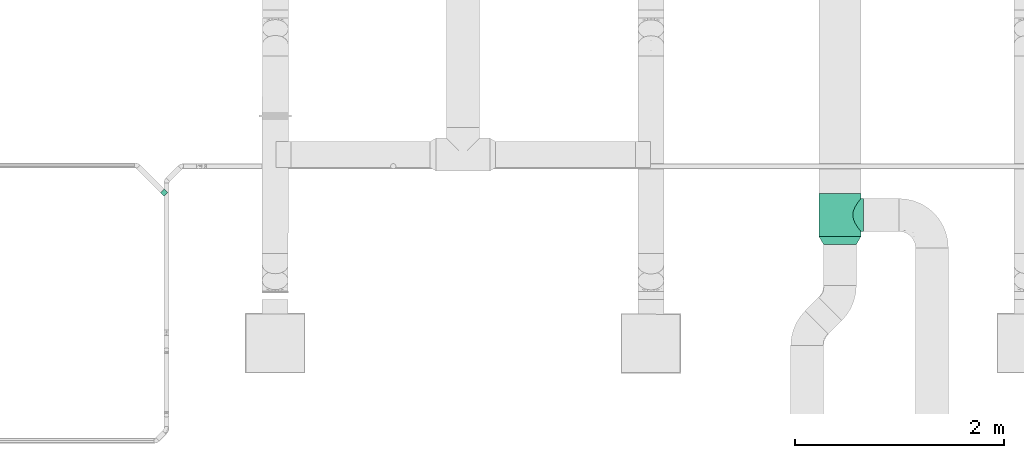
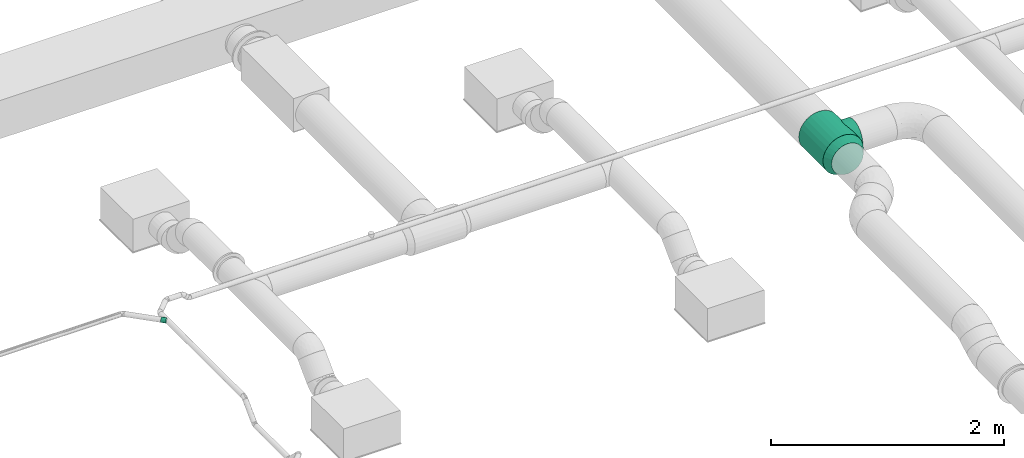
# One storey, part 57 of 63: 3 flow fittings.
"""IFC2X3 building model written with IfcOpenShell, lengths in millimetres."""

from ifc_helpers import new_model, entity, si_unit, converted_unit, derived_unit, direction, frame, origin_with_axes, place, context, subcontext, project, spatial, open_shell, surface_model, source, transform, mapped, type_object, element, save


model = new_model("IFC2X3")

# Units and contexts
model_context = context("Model", 3, precision=0.01, world=frame((0.0, 4.29681676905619e-09, 0.0)), true_north=direction((4.01073788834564e-13, 1.0)))
plan_context = context("Plan", 3, precision=0.01, world=frame((0.0, 4.29681676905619e-09, 0.0)), true_north=direction((4.01073788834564e-13, 1.0)))
body_context = subcontext(model_context, "Body", "Model", "MODEL_VIEW")
ifc_project = project(units=[converted_unit("PLANEANGLEUNIT", "DEGREE", entity("IfcPositiveLengthMeasure", 0.0174532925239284), si_unit("PLANEANGLEUNIT", "RADIAN"), dimensions=[0, 0, 0, 0, 0, 0, 0]), si_unit("AREAUNIT", "SQUARE_METRE"), si_unit("LENGTHUNIT", "METRE", prefix="MILLI"), si_unit("MASSUNIT", "GRAM", prefix="KILO"), si_unit("POWERUNIT", "WATT"), si_unit("PRESSUREUNIT", "PASCAL"), si_unit("FORCEUNIT", "NEWTON", prefix="KILO"), si_unit("ELECTRICVOLTAGEUNIT", "VOLT"), si_unit("ELECTRICCURRENTUNIT", "AMPERE"), si_unit("THERMODYNAMICTEMPERATUREUNIT", "DEGREE_CELSIUS"), si_unit("TIMEUNIT", "SECOND"), si_unit("VOLUMEUNIT", "CUBIC_METRE"), derived_unit("LINEARVELOCITYUNIT", [(si_unit("LENGTHUNIT", "METRE"), 1), (si_unit("TIMEUNIT", "SECOND"), -1)]), derived_unit("VOLUMETRICFLOWRATEUNIT", [(si_unit("VOLUMEUNIT", "CUBIC_METRE"), 1), (si_unit("TIMEUNIT", "SECOND"), -1)]), derived_unit("THERMALTRANSMITTANCEUNIT", [(si_unit("POWERUNIT", "WATT"), 1), (si_unit("THERMODYNAMICTEMPERATUREUNIT", "KELVIN"), -1), (si_unit("AREAUNIT", "SQUARE_METRE"), -1)]), derived_unit("SOUNDPRESSUREUNIT", [(si_unit("PRESSUREUNIT", "PASCAL"), 1)])], contexts=[model_context, plan_context])

# Site, building, storey
site_placement = place(None, frame((0.0, -4.29681676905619e-09, 0.0), z_axis=(0.0, 0.0, 1.0), x_axis=(1.0, 0.0, 0.0)))
site = spatial("IfcSite", under=ifc_project, at=site_placement, CompositionType="ELEMENT")
building_placement = place(site_placement, frame((0.0, 4.29681676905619e-09, 0.0), z_axis=(0.0, 0.0, 1.0), x_axis=(1.0, 0.0, 0.0)))
building = spatial("IfcBuilding", under=site, at=building_placement, Name="mc-building", CompositionType="ELEMENT")
storey_placement = place(building_placement, frame((0.0, 0.0, 210900.0), z_axis=(0.0, 0.0, 1.0), x_axis=(1.0, 0.0, 0.0)))
storey = spatial("IfcBuildingStorey", under=building, at=storey_placement, Name="Nivå F", CompositionType="ELEMENT", Elevation=210900.0)

# Flow fittings
duct_fitting_type_1 = type_object("IfcDuctFittingType", Name="magicirc_tapoutlet_001", PredefinedType="CONNECTOR")
shared_shape_1 = source(origin_with_axes(), body_context, "Body", "SurfaceModel", [
    surface_model("IfcShellBasedSurfaceModel", [(20.0, 6.47048, -24.14815), (20.0, 25.0, 0.0), (20.0, 0.0, -25.0), (20.0, 12.5, -21.65064), (20.0, 17.67767, -17.67767), (20.0, 21.65064, -12.5), (20.0, -17.67767, -17.67767), (20.0, -24.14815, 6.47048), (20.0, -12.5, -21.65064), (20.0, -6.47048, -24.14815), (20.0, -21.65064, -12.5), (20.0, -24.14815, -6.47048), (20.0, -25.0, 0.0), (20.0, 24.14815, -6.47048), (20.0, 24.14815, 6.47048), (20.0, 21.65064, 12.5), (20.0, 0.0, 25.0), (20.0, 17.67767, 17.67767), (20.0, 12.5, 21.65064), (20.0, 6.47048, 24.14815), (20.0, -17.67767, 17.67767), (20.0, -21.65064, 12.5), (20.0, -12.5, 21.65064), (20.0, -6.47048, 24.14815), (0.0, 0.0, 25.0), (0.0, 6.47048, 24.14815), (0.0, 12.5, 21.65064), (0.0, 17.67767, 17.67767), (0.0, 21.65064, 12.5), (0.0, 24.14815, 6.47048), (0.0, 25.0, 0.0), (0.0, 24.14815, -6.47048), (0.0, 21.65064, -12.5), (0.0, 17.67767, -17.67767), (0.0, 0.0, -25.0), (0.0, 6.47048, -24.14815), (0.0, 12.5, -21.65064), (0.0, -6.47048, -24.14815), (0.0, -12.5, -21.65064), (0.0, -17.67767, -17.67767), (0.0, -21.65064, -12.5), (0.0, -24.14815, -6.47048), (0.0, -25.0, 0.0), (0.0, -24.14815, 6.47048), (0.0, -21.65064, 12.5), (0.0, -17.67767, 17.67767), (0.0, -12.5, 21.65064), (0.0, -6.47048, 24.14815), (-26.33341, 0.0, -25.0), (-26.33341, -6.47048, -24.14815), (-26.33341, 6.47048, -24.14815), (-26.33341, 24.14815, 6.47048), (-26.33341, 12.5, -21.65064), (-26.33341, 17.67767, -17.67767), (-26.33341, 21.65064, -12.5), (-26.33341, -25.0, 0.0), (-26.33341, -24.14815, 6.47048), (-26.33341, -17.67767, -17.67767), (-26.33341, -12.5, -21.65064), (-26.33341, -24.14815, -6.47048), (-26.33341, -21.65064, -12.5), (-26.33341, 24.14815, -6.47048), (-26.33341, 21.65064, 12.5), (-26.33341, 17.67767, 17.67767), (-26.33341, 12.5, 21.65064), (-26.33341, -6.47048, 24.14815), (-26.33341, 6.47048, 24.14815), (-26.33341, -21.65064, 12.5), (-26.33341, -17.67767, 17.67767), (-26.33341, -12.5, 21.65064), (-26.33341, 0.0, 25.0), (-26.33341, 25.0, 0.0)], [open_shell([[[0, 1, 2]], [[3, 1, 0]], [[4, 5, 1]], [[4, 1, 3]], [[6, 2, 7]], [[2, 6, 8]], [[8, 9, 2]], [[10, 7, 11]], [[10, 6, 7]], [[12, 11, 7]], [[1, 5, 13]], [[2, 14, 15]], [[16, 2, 15]], [[16, 17, 18]], [[16, 15, 17]], [[18, 19, 16]], [[20, 21, 2]], [[7, 2, 21]], [[2, 22, 20]], [[23, 22, 2]], [[16, 23, 2]], [[1, 14, 2]], [[24, 16, 19]], [[25, 19, 18]], [[24, 19, 25]], [[26, 17, 27]], [[26, 25, 18]], [[17, 26, 18]], [[28, 15, 14]], [[29, 14, 1]], [[27, 15, 28]], [[29, 28, 14]], [[30, 29, 1]], [[15, 27, 17]], [[30, 1, 13]], [[31, 13, 5]], [[30, 13, 31]], [[32, 4, 33]], [[32, 31, 5]], [[4, 32, 5]], [[0, 2, 34]], [[3, 0, 35]], [[36, 33, 3]], [[34, 35, 0]], [[36, 3, 35]], [[3, 33, 4]], [[34, 2, 9]], [[37, 9, 8]], [[34, 9, 37]], [[38, 6, 39]], [[38, 37, 8]], [[6, 38, 8]], [[40, 10, 11]], [[41, 11, 12]], [[39, 10, 40]], [[41, 40, 11]], [[42, 41, 12]], [[10, 39, 6]], [[42, 12, 7]], [[43, 7, 21]], [[42, 7, 43]], [[44, 20, 45]], [[44, 43, 21]], [[20, 44, 21]], [[46, 22, 23]], [[47, 23, 16]], [[45, 22, 46]], [[47, 46, 23]], [[24, 47, 16]], [[22, 45, 20]], [[17, 16, 15]], [[21, 7, 2]], [[22, 20, 2]], [[22, 2, 23]], [[48, 49, 50]], [[50, 51, 52]], [[53, 51, 54]], [[52, 51, 53]], [[50, 55, 56]], [[57, 55, 58]], [[49, 58, 55]], [[59, 55, 60]], [[57, 60, 55]], [[55, 50, 49]], [[61, 54, 51]], [[50, 62, 51]], [[63, 62, 50]], [[64, 63, 65]], [[65, 63, 50]], [[65, 66, 64]], [[67, 68, 50]], [[50, 56, 67]], [[69, 50, 68]], [[50, 69, 65]], [[65, 70, 66]], [[71, 61, 51]], [[70, 24, 25]], [[66, 25, 26]], [[70, 25, 66]], [[64, 27, 63]], [[64, 66, 26]], [[27, 64, 26]], [[62, 28, 29]], [[51, 29, 30]], [[63, 28, 62]], [[51, 62, 29]], [[71, 51, 30]], [[28, 63, 27]], [[71, 30, 31]], [[61, 31, 32]], [[71, 31, 61]], [[54, 33, 53]], [[54, 61, 32]], [[33, 54, 32]], [[50, 36, 35]], [[48, 35, 34]], [[52, 53, 36]], [[50, 52, 36]], [[35, 48, 50]], [[36, 53, 33]], [[48, 34, 37]], [[49, 37, 38]], [[48, 37, 49]], [[58, 39, 57]], [[58, 49, 38]], [[39, 58, 38]], [[41, 42, 55]], [[40, 41, 60]], [[60, 57, 40]], [[55, 59, 41]], [[60, 41, 59]], [[40, 57, 39]], [[55, 42, 43]], [[56, 43, 44]], [[55, 43, 56]], [[67, 45, 68]], [[67, 56, 44]], [[45, 67, 44]], [[47, 24, 65]], [[46, 47, 69]], [[68, 46, 69]], [[70, 65, 24]], [[47, 65, 69]], [[46, 68, 45]]])]),
])
flow_fitting_1_placement = place(storey_placement, frame((522235.0, 452230.74559, 4480.0), z_axis=(0.0, 0.0, -1.0), x_axis=(-0.707106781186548, 0.707106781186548, 0.0)))
element("IfcFlowFitting", 1, at=flow_fitting_1_placement, inside=storey, type_object=duct_fitting_type_1, Name="magicirc_tapoutlet_001", context=body_context, shape_type="MappedRepresentation", body=[
    mapped(shared_shape_1, transform((0.0, 0.0, 0.0), scale=1.0)),
])
duct_fitting_type_2 = type_object("IfcDuctFittingType", Name="TCPU", PredefinedType="JUNCTION")
shared_shape_2 = source(origin_with_axes(), body_context, "Body", "SurfaceModel", [
    surface_model("IfcShellBasedSurfaceModel", [(0.0, -225.0, -157.5), (40.764, -225.0, -152.13332), (-40.764, -225.0, -152.13332), (-152.13332, -225.0, 40.764), (-78.75, -225.0, -136.39901), (-111.36932, -225.0, -111.36932), (-136.39901, -225.0, -78.75), (157.5, -225.0, 0.0), (152.13332, -225.0, 40.764), (111.36932, -225.0, -111.36932), (78.75, -225.0, -136.39901), (152.13332, -225.0, -40.764), (136.39901, -225.0, -78.75), (-152.13332, -225.0, -40.764), (-111.36932, -225.0, 111.36932), (-136.39901, -225.0, 78.75), (-40.764, -225.0, 152.13332), (-78.75, -225.0, 136.39901), (0.0, -225.0, 157.5), (111.36932, -225.0, 111.36932), (136.39901, -225.0, 78.75), (40.764, -225.0, 152.13332), (78.75, -225.0, 136.39901), (-157.5, -225.0, 0.0), (0.0, -123.26293, 157.5), (-19.97844, -124.87148, 156.22776), (-39.2161, -129.35089, 152.53965), (-57.29101, -135.92649, 146.71057), (-74.08667, -143.81441, 138.9871), (-89.60742, -152.39173, 129.52513), (-103.858, -161.18386, 118.4051), (-116.79651, -169.80924, 105.66374), (-128.31739, -177.93006, 91.32852), (-146.38289, -191.36797, 58.12314), (-144.26616, -225.0, 59.757), (-152.45481, -196.05157, 39.54467), (-138.25281, -185.22309, 75.44807), (-156.22199, -198.99512, 20.02355), (-157.5, -200.0, 0.0), (-154.81666, -225.0, 20.382), (-152.45341, -196.0505, -39.55003), (-146.38091, -191.36646, -58.12813), (-128.31442, -177.92791, -91.33268), (-138.24999, -185.22098, -75.45323), (-154.81666, -225.0, -20.382), (-156.22113, -198.99445, -20.03014), (-144.26616, -225.0, -59.757), (-116.79519, -169.80833, -105.6652), (-74.08949, -143.81586, -138.9856), (-57.29475, -135.92807, -146.7091), (-39.22125, -129.35245, -152.53833), (-19.98399, -124.87237, -156.22706), (0.0, -123.26293, -157.5), (-103.85894, -161.18446, -118.40426), (-89.60943, -152.39291, -129.52374), (19.97844, -124.87148, -156.22776), (39.2161, -129.35089, -152.53965), (57.29101, -135.92649, -146.71057), (74.08667, -143.81441, -138.9871), (89.60742, -152.39173, -129.52513), (103.858, -161.18386, -118.4051), (116.79651, -169.80924, -105.66374), (128.31739, -177.93006, -91.32852), (146.38289, -191.36797, -58.12314), (144.26616, -225.0, -59.757), (152.45481, -196.05157, -39.54467), (138.25281, -185.22309, -75.44807), (156.22199, -198.99512, -20.02355), (157.5, -200.0, 0.0), (154.81666, -225.0, -20.382), (152.45481, -196.05157, 39.54467), (146.38289, -191.36797, 58.12314), (128.31739, -177.93006, 91.32852), (138.25281, -185.22309, 75.44807), (154.81666, -225.0, 20.382), (156.22199, -198.99512, 20.02355), (144.26616, -225.0, 59.757), (116.79651, -169.80924, 105.66374), (74.08667, -143.81441, 138.9871), (57.29101, -135.92649, 146.71057), (39.2161, -129.35089, 152.53965), (19.97844, -124.87148, 156.22776), (103.858, -161.18386, 118.4051), (89.60742, -152.39173, 129.52513), (-207.5, 0.0, -200.0), (-207.5, -44.50419, -194.98559), (-207.5, 44.50419, -194.98559), (-207.5, 194.98559, 44.50419), (-207.5, 86.77674, -180.19378), (-207.5, 180.19378, -86.77674), (-207.5, 156.36629, -124.69796), (-207.5, 124.69796, -156.36629), (-207.5, -200.0, 0.0), (-207.5, -194.98559, 44.50419), (-207.5, -124.69796, -156.36629), (-207.5, -86.77674, -180.19378), (-207.5, -156.36629, -124.69796), (-207.5, -180.19378, -86.77674), (-207.5, -194.98559, -44.50419), (-207.5, 194.98559, -44.50419), (-207.5, 180.19378, 86.77674), (-207.5, 156.36629, 124.69796), (-207.5, 124.69796, 156.36629), (-207.5, 86.77674, 180.19378), (-207.5, 44.50419, 194.98559), (-207.5, 0.0, 200.0), (-207.5, -156.36629, 124.69796), (-207.5, -180.19378, 86.77674), (-207.5, -86.77674, 180.19378), (-207.5, -44.50419, 194.98559), (-207.5, -124.69796, 156.36629), (-207.5, 200.0, 0.0), (207.5, 200.0, 0.0), (207.5, 0.0, -200.0), (207.5, 44.50419, -194.98559), (207.5, 86.77674, -180.19378), (207.5, 156.36629, -124.69796), (207.5, 180.19378, -86.77674), (207.5, 124.69796, -156.36629), (207.5, -156.36629, -124.69796), (207.5, -194.98559, 44.50419), (207.5, -86.77674, -180.19378), (207.5, -44.50419, -194.98559), (207.5, -124.69796, -156.36629), (207.5, -180.19378, -86.77674), (207.5, -194.98559, -44.50419), (207.5, -200.0, 0.0), (207.5, 194.98559, -44.50419), (207.5, 194.98559, 44.50419), (207.5, 180.19378, 86.77674), (207.5, 156.36629, 124.69796), (207.5, 124.69796, 156.36629), (207.5, 86.77674, 180.19378), (207.5, 44.50419, 194.98559), (207.5, -156.36629, 124.69796), (207.5, -180.19378, 86.77674), (207.5, -86.77674, 180.19378), (207.5, -124.69796, 156.36629), (207.5, -44.50419, 194.98559), (207.5, 0.0, 200.0), (207.5, -196.23918, -33.37814), (207.5, -168.28003, -105.73735), (154.3384, -197.52335, -29.78411), (-207.5, -191.28763, -55.07233), (-207.5, -187.58968, -65.64047), (-207.5, -197.4928, -22.25209), (-207.5, -168.28003, -105.73735), (207.5, -187.58968, -65.64047), (-154.33727, -197.52248, -29.79009), (207.5, -191.28763, -55.07233), (207.5, -197.4928, -22.25209), (-207.5, -196.23918, -33.37814), (207.5, -196.23918, 33.37814), (154.3384, -197.52335, 29.78411), (207.5, -197.4928, 22.25209), (207.5, -187.58968, 65.64047), (207.5, -168.28003, 105.73735), (-207.5, -197.4928, 22.25209), (-154.3384, -197.52335, 29.78411), (-207.5, -168.28003, 105.73735), (-207.5, -187.58968, 65.64047), (-207.5, -191.28763, 55.07233), (-207.5, -196.23918, 33.37814), (207.5, -191.28763, 55.07233)], [open_shell([[[0, 1, 2]], [[2, 3, 4]], [[5, 3, 6]], [[4, 3, 5]], [[2, 7, 8]], [[9, 7, 10]], [[2, 1, 10]], [[11, 7, 12]], [[9, 12, 7]], [[10, 7, 2]], [[13, 6, 3]], [[2, 14, 3]], [[15, 3, 14]], [[2, 16, 17]], [[17, 14, 2]], [[16, 2, 18]], [[19, 18, 20]], [[2, 8, 20]], [[21, 18, 22]], [[19, 22, 18]], [[2, 20, 18]], [[23, 13, 3]], [[18, 24, 25]], [[16, 26, 27]], [[25, 26, 16]], [[16, 27, 28]], [[18, 25, 16]], [[17, 29, 30]], [[17, 16, 28]], [[17, 30, 14]], [[29, 17, 28]], [[31, 32, 14]], [[33, 3, 34]], [[33, 35, 3]], [[33, 34, 36]], [[32, 36, 15]], [[34, 15, 36]], [[15, 14, 32]], [[37, 38, 23]], [[37, 23, 39]], [[39, 3, 35]], [[39, 35, 37]], [[31, 14, 30]], [[40, 41, 13]], [[6, 42, 5]], [[43, 42, 6]], [[40, 44, 45]], [[43, 6, 46]], [[23, 38, 45]], [[13, 44, 40]], [[13, 41, 46]], [[45, 44, 23]], [[43, 46, 41]], [[42, 47, 5]], [[2, 48, 49]], [[2, 50, 51]], [[49, 50, 2]], [[51, 52, 0]], [[4, 5, 53]], [[53, 5, 47]], [[4, 53, 54]], [[48, 4, 54]], [[48, 2, 4]], [[51, 0, 2]], [[0, 52, 55]], [[1, 56, 57]], [[55, 56, 1]], [[1, 57, 58]], [[0, 55, 1]], [[10, 59, 60]], [[10, 1, 58]], [[10, 60, 9]], [[59, 10, 58]], [[61, 62, 9]], [[63, 11, 64]], [[63, 65, 11]], [[63, 64, 66]], [[62, 66, 12]], [[64, 12, 66]], [[12, 9, 62]], [[67, 68, 7]], [[67, 7, 69]], [[69, 11, 65]], [[69, 65, 67]], [[61, 9, 60]], [[70, 71, 8]], [[20, 72, 19]], [[73, 72, 20]], [[70, 74, 75]], [[73, 20, 76]], [[7, 68, 75]], [[8, 74, 70]], [[8, 71, 76]], [[75, 74, 7]], [[73, 76, 71]], [[72, 77, 19]], [[21, 78, 79]], [[21, 80, 81]], [[79, 80, 21]], [[81, 24, 18]], [[22, 19, 82]], [[82, 19, 77]], [[22, 82, 83]], [[78, 22, 83]], [[78, 21, 22]], [[81, 18, 21]], [[84, 85, 86]], [[86, 87, 88]], [[87, 89, 90]], [[90, 91, 87]], [[88, 87, 91]], [[86, 92, 93]], [[94, 92, 95]], [[86, 85, 95]], [[92, 96, 97]], [[97, 98, 92]], [[92, 94, 96]], [[95, 92, 86]], [[99, 89, 87]], [[87, 86, 100]], [[86, 101, 100]], [[102, 86, 103]], [[104, 103, 86]], [[86, 102, 101]], [[105, 104, 86]], [[106, 105, 107]], [[86, 93, 107]], [[108, 109, 105]], [[105, 110, 108]], [[106, 110, 105]], [[86, 107, 105]], [[111, 99, 87]], [[112, 113, 114]], [[115, 112, 114]], [[116, 117, 112]], [[112, 118, 116]], [[112, 115, 118]], [[119, 113, 120]], [[113, 121, 122]], [[113, 123, 121]], [[123, 113, 119]], [[119, 120, 124]], [[125, 124, 120]], [[125, 120, 126]], [[117, 127, 112]], [[112, 128, 129]], [[130, 113, 129]], [[131, 132, 113]], [[113, 132, 133]], [[130, 131, 113]], [[113, 133, 134]], [[134, 135, 113]], [[120, 113, 135]], [[133, 136, 137]], [[134, 133, 137]], [[136, 133, 138]], [[133, 139, 138]], [[112, 129, 113]], [[104, 139, 133]], [[103, 133, 132]], [[102, 132, 131]], [[105, 139, 104]], [[104, 133, 103]], [[132, 102, 103]], [[131, 101, 102]], [[100, 130, 129]], [[87, 129, 128]], [[111, 128, 112]], [[101, 130, 100]], [[100, 129, 87]], [[128, 111, 87]], [[130, 101, 131]], [[112, 127, 99]], [[127, 117, 89]], [[90, 117, 116]], [[99, 111, 112]], [[89, 99, 127]], [[117, 90, 89]], [[116, 91, 90]], [[88, 118, 115]], [[86, 115, 114]], [[84, 114, 113]], [[91, 118, 88]], [[88, 115, 86]], [[114, 84, 86]], [[118, 91, 116]], [[121, 123, 55]], [[85, 113, 122]], [[121, 95, 122]], [[55, 52, 121]], [[123, 56, 55]], [[65, 125, 140]], [[119, 59, 58]], [[60, 141, 61]], [[56, 123, 57]], [[57, 123, 58]], [[140, 142, 65]], [[41, 143, 144]], [[123, 119, 58]], [[41, 98, 143]], [[113, 85, 84]], [[121, 52, 95]], [[95, 85, 122]], [[94, 95, 51]], [[95, 52, 51]], [[45, 92, 145]], [[42, 146, 47]], [[48, 94, 49]], [[49, 94, 50]], [[48, 54, 96]], [[66, 147, 63]], [[53, 96, 54]], [[96, 94, 48]], [[145, 148, 45]], [[50, 94, 51]], [[63, 147, 149]], [[60, 59, 119]], [[124, 66, 62]], [[124, 147, 66]], [[119, 141, 60]], [[61, 141, 62]], [[141, 124, 62]], [[67, 150, 126]], [[67, 126, 68]], [[65, 63, 125]], [[150, 67, 142]], [[125, 63, 149]], [[146, 96, 53]], [[150, 142, 140]], [[42, 43, 97]], [[43, 41, 144]], [[97, 146, 42]], [[146, 53, 47]], [[151, 148, 145]], [[41, 40, 98]], [[151, 98, 40]], [[92, 45, 38]], [[144, 97, 43]], [[151, 40, 148]], [[120, 70, 152]], [[75, 68, 126]], [[152, 153, 154]], [[120, 71, 70]], [[155, 73, 71]], [[73, 155, 135]], [[72, 73, 135]], [[72, 135, 156]], [[134, 82, 156]], [[157, 37, 158]], [[37, 92, 38]], [[92, 37, 157]], [[35, 33, 93]], [[32, 159, 107]], [[31, 159, 32]], [[36, 107, 160]], [[107, 36, 32]], [[33, 161, 93]], [[30, 106, 159]], [[157, 158, 162]], [[82, 134, 83]], [[82, 77, 156]], [[35, 93, 162]], [[78, 83, 134]], [[137, 79, 78]], [[71, 120, 163]], [[78, 134, 137]], [[72, 156, 77]], [[24, 81, 136]], [[138, 109, 136]], [[80, 137, 81]], [[137, 80, 79]], [[81, 137, 136]], [[75, 126, 154]], [[138, 139, 105]], [[36, 160, 33]], [[110, 28, 27]], [[71, 163, 155]], [[106, 29, 28]], [[106, 30, 29]], [[33, 160, 161]], [[110, 106, 28]], [[27, 26, 110]], [[154, 153, 75]], [[110, 25, 108]], [[162, 158, 35]], [[108, 25, 24]], [[25, 110, 26]], [[136, 108, 24]], [[136, 109, 108]], [[138, 105, 109]], [[30, 159, 31]], [[152, 70, 153]]])]),
])
flow_fitting_2_placement = place(storey_placement, frame((528713.30719, 452014.68542, 4200.0), z_axis=(0.0, 0.0, 1.0), x_axis=(0.0, 1.0, 0.0)))
element("IfcFlowFitting", 2, at=flow_fitting_2_placement, inside=storey, type_object=duct_fitting_type_2, Name="TCPU", context=body_context, shape_type="MappedRepresentation", body=[
    mapped(shared_shape_2, transform((0.0, 0.0, 0.0), scale=1.0)),
])
duct_fitting_type_3 = type_object("IfcDuctFittingType", Name="magicirc_reduction_001", PredefinedType="TRANSITION")
shared_shape_3 = source(origin_with_axes(), body_context, "Body", "SurfaceModel", [
    surface_model("IfcShellBasedSurfaceModel", [(0.0, -177.09121, -92.94464), (0.0, -113.61295, -164.59677), (0.0, -149.70215, -132.62454), (0.0, 200.0, 0.0), (0.0, 194.18836, -47.86313), (0.0, 177.09121, -92.94464), (0.0, -70.92098, 187.00325), (0.0, -24.10734, 198.54177), (0.0, 24.10734, 198.54177), (0.0, 70.92098, 187.00325), (0.0, 113.61295, 164.59677), (0.0, 149.70215, 132.62454), (0.0, 177.09121, 92.94464), (0.0, -194.18836, -47.86313), (0.0, -113.61295, 164.59677), (0.0, -177.09121, 92.94464), (0.0, -149.70215, 132.62454), (0.0, -200.0, 0.0), (0.0, -194.18836, 47.86313), (0.0, 194.18836, 47.86313), (0.0, 149.70215, -132.62454), (75.0, -157.5, 0.0), (75.0, 0.0, 157.5), (75.0, -40.764, 152.13332), (75.0, -78.75, 136.39901), (75.0, 152.13332, -40.764), (75.0, 40.764, 152.13332), (75.0, -111.36932, 111.36932), (75.0, -136.39901, 78.75), (75.0, 78.75, 136.39901), (75.0, 111.36932, 111.36932), (75.0, 152.13332, 40.764), (75.0, 157.5, 0.0), (75.0, 136.39901, 78.75), (75.0, -152.13332, 40.764), (75.0, -152.13332, -40.764), (75.0, -136.39901, -78.75), (75.0, 78.75, -136.39901), (75.0, -78.75, -136.39901), (75.0, -111.36932, -111.36932), (75.0, 0.0, -157.5), (75.0, -40.764, -152.13332), (75.0, 136.39901, -78.75), (75.0, 111.36932, -111.36932), (75.0, 40.764, -152.13332), (0.0, -24.10734, -198.54177), (0.0, 113.61295, -164.59677), (0.0, 70.92098, -187.00325), (0.0, 24.10734, -198.54177), (0.0, -70.92098, -187.00325)], [open_shell([[[0, 1, 2]], [[3, 4, 5]], [[6, 7, 8]], [[3, 8, 9]], [[9, 10, 3]], [[11, 3, 10]], [[3, 11, 12]], [[6, 13, 14]], [[15, 16, 13]], [[13, 17, 18]], [[18, 15, 13]], [[16, 14, 13]], [[3, 12, 19]], [[3, 5, 20]], [[3, 13, 6]], [[21, 22, 23]], [[24, 21, 23]], [[22, 25, 26]], [[27, 21, 24]], [[21, 27, 28]], [[29, 25, 30]], [[25, 29, 26]], [[31, 25, 32]], [[33, 25, 31]], [[33, 30, 25]], [[28, 34, 21]], [[21, 35, 36]], [[37, 21, 36]], [[37, 36, 38]], [[38, 36, 39]], [[40, 38, 41]], [[42, 37, 43]], [[37, 42, 25]], [[37, 40, 44]], [[37, 25, 21]], [[38, 40, 37]], [[21, 25, 22]], [[3, 6, 8]], [[45, 20, 46]], [[3, 20, 0]], [[47, 48, 46]], [[0, 13, 3]], [[49, 0, 45]], [[1, 0, 49]], [[0, 20, 45]], [[48, 45, 46]], [[25, 42, 5]], [[32, 25, 4]], [[37, 44, 47]], [[43, 37, 46]], [[42, 43, 20]], [[25, 5, 4]], [[4, 3, 32]], [[20, 5, 42]], [[20, 43, 46]], [[46, 37, 47]], [[48, 47, 44]], [[44, 40, 48]], [[45, 40, 41]], [[49, 41, 38]], [[39, 36, 2]], [[35, 21, 13]], [[36, 35, 0]], [[38, 39, 1]], [[45, 41, 49]], [[49, 38, 1]], [[1, 39, 2]], [[0, 2, 36]], [[13, 0, 35]], [[17, 13, 21]], [[40, 45, 48]], [[34, 28, 15]], [[21, 34, 18]], [[24, 23, 6]], [[27, 24, 14]], [[28, 27, 16]], [[34, 15, 18]], [[18, 17, 21]], [[16, 15, 28]], [[16, 27, 14]], [[14, 24, 6]], [[7, 6, 23]], [[23, 22, 7]], [[8, 22, 26]], [[9, 26, 29]], [[30, 33, 11]], [[31, 32, 19]], [[33, 31, 12]], [[29, 30, 10]], [[8, 26, 9]], [[9, 29, 10]], [[10, 30, 11]], [[12, 11, 33]], [[19, 12, 31]], [[3, 19, 32]], [[22, 8, 7]]])]),
])
flow_fitting_3_placement = place(storey_placement, frame((528713.30719, 451807.18542, 4200.0), z_axis=(0.0, 0.0, 1.0), x_axis=(0.0, -1.0, 0.0)))
element("IfcFlowFitting", 3, at=flow_fitting_3_placement, inside=storey, type_object=duct_fitting_type_3, Name="magicirc_reduction_001", context=body_context, shape_type="MappedRepresentation", body=[
    mapped(shared_shape_3, transform((0.0, 0.0, 0.0), scale=1.0)),
])

save(model, "model.ifc")
